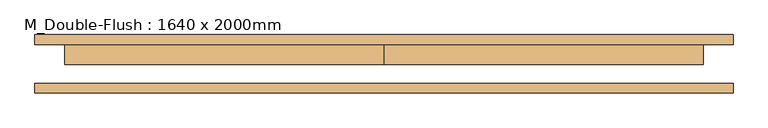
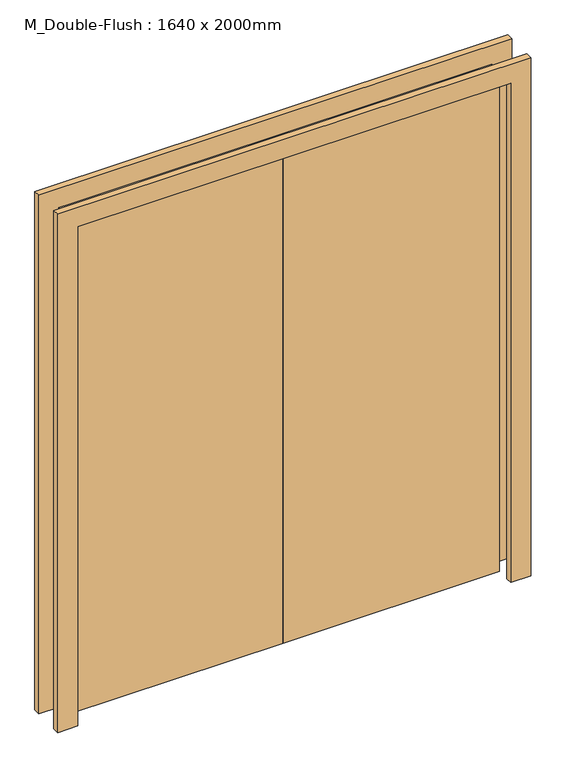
"""IFC4 building model written with IfcOpenShell, lengths in millimetres: door geometry, M_Double-Flush : 1640 x 2000mm."""

from ifc_helpers import new_model, si_unit, frame, origin, origin_with_axes, place, context, project, spatial, polyline, outline, extrude, source, transform, mapped, element, save


def m_double_flush_1640_x_2000mm_58610322(model_context):
    return source(origin(), model_context, "Body", "SweptSolid", [
        extrude(outline(polyline([(0.0, 50.0), (820.0, 50.0), (820.0, -1.0), (0.0, -1.0), (0.0, 50.0)])), origin_with_axes(), (0.0, 0.0, 1.0), 2000.0),
        extrude(outline(polyline([(-820.0, 50.0), (0.0, 50.0), (0.0, -1.0), (-820.0, -1.0), (-820.0, 50.0)])), origin_with_axes(), (0.0, 0.0, 1.0), 2000.0),
        extrude(outline(polyline([(2000.0, -820.0), (2000.0, 820.0), (0.0, 820.0), (0.0, 896.0), (2076.0, 896.0), (2076.0, -896.0), (0.0, -896.0), (0.0, -820.0), (2000.0, -820.0)])), frame((0.0, -75.0, 0.0), z_axis=(0.0, 1.0, 0.0), x_axis=(0.0, 0.0, 1.0)), (0.0, 0.0, 1.0), 25.0),
        extrude(outline(polyline([(2000.0, -820.0), (2000.0, 820.0), (0.0, 820.0), (0.0, 896.0), (2076.0, 896.0), (2076.0, -896.0), (0.0, -896.0), (0.0, -820.0), (2000.0, -820.0)])), frame((0.0, 50.0, 0.0), z_axis=(0.0, 1.0, 0.0), x_axis=(0.0, 0.0, 1.0)), (0.0, 0.0, 1.0), 25.0),
    ])


if __name__ == "__main__":
    model = new_model("IFC4")
    model_context = context("Model", 3, world=origin())
    ifc_project = project(units=[si_unit("LENGTHUNIT", "METRE", prefix="MILLI")], contexts=[model_context])
    site = spatial("IfcSite", under=ifc_project)
    building = spatial("IfcBuilding", under=site)
    placement = place(None, origin())
    m_double_flush_1640_x_2000mm_shape = m_double_flush_1640_x_2000mm_58610322(model_context)
    element("IfcDoor", 1, ObjectType="M_Double-Flush : 1640 x 2000mm", at=placement, inside=building, context=model_context, shape_type="MappedRepresentation", body=[
        mapped(m_double_flush_1640_x_2000mm_shape, transform((0.0, 0.0, 0.0), x_axis=(1.0, 0.0, 0.0), y_axis=(0.0, 1.0, 0.0), z_axis=(0.0, 0.0, 1.0))),
    ])
    save(model, "model.ifc")
